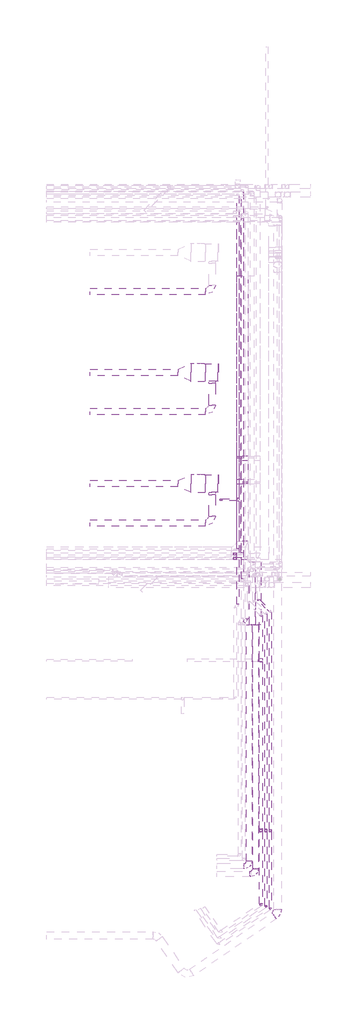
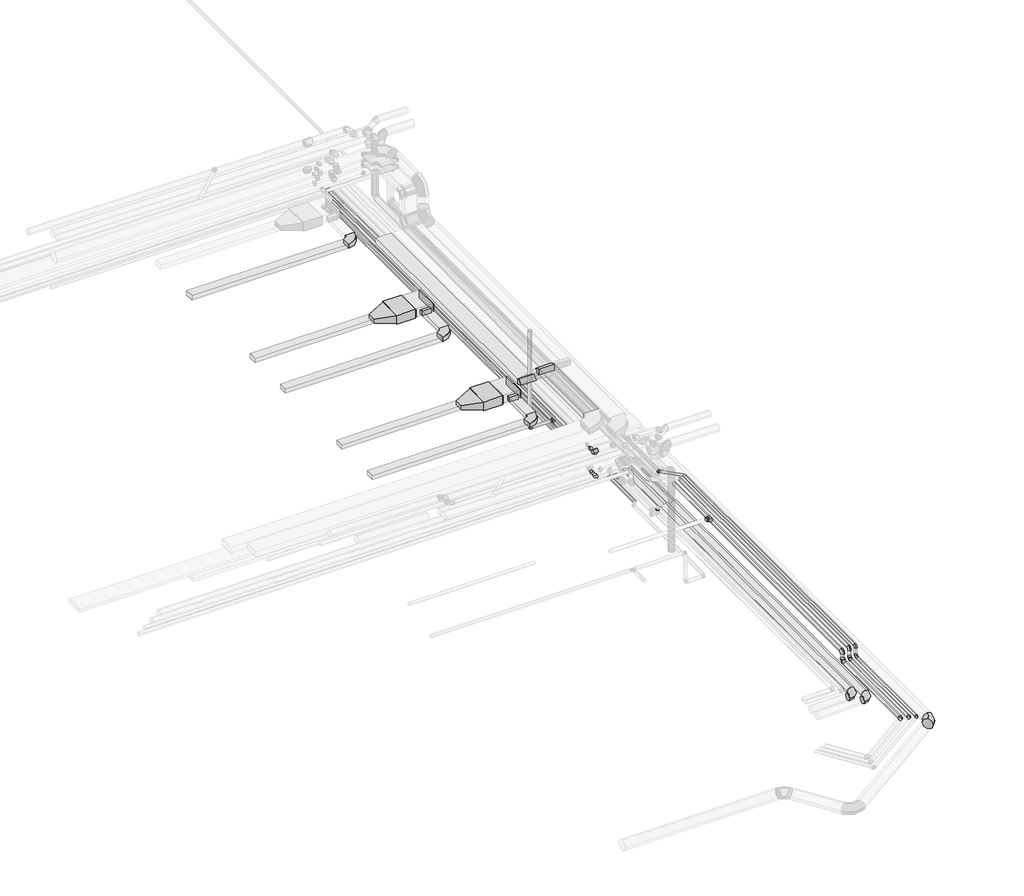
# One storey, part 7 of 12: 26 pipe segments, 21 pipe fittings, 12 duct fittings, 12 duct segments, 2 proxies.
"""IFC4 building model written with IfcOpenShell, lengths in millimetres."""

from ifc_helpers import new_model, si_unit, point, frame, frame_2d, origin, place, context, project, spatial, polyline, circle_curve, trimmed, segment, composite_curve, outline, extrude, transform, mapped, element, save
from components import fc01_db58e849, duct_fitting_83e7c145, ext_22d5d12d, m_codo_rectangular_radio_apt_1_w_cd8a0157, m_codo_rectangular_radio_ext_1_w_96c848b7, m_codo_redondo_ext_1_d_34d035f7, m_remate_rectangular_ext_55e19840, pipe_fitting_fa3f9604, pipe_fitting_87aeffad, pipe_fitting_4a6b8cfe, pipe_fitting_2d09eb79, pipe_fitting_e0fa64fe, pipe_fitting_6ca4cbf4, pipe_fitting_83247f38, pipe_fitting_68ac33cf, pipe_fitting_f0bc9a91, pipe_fitting_44d1c861, pipe_fitting_c627985a, pipe_fitting_243cbe8d, pipe_fitting_32a69fdb, pipe_fitting_2d7a21c9, pipe_fitting_19aea86e, pipe_fitting_a1899b5d, pipe_fitting_a384b232, pipe_fitting_5adb8ecf

model = new_model("IFC4")

# Units and contexts
model_context = context("Model", 3, world=origin())
ifc_project = project(units=[si_unit("LENGTHUNIT", "METRE", prefix="MILLI")], contexts=[model_context])

# Site, building, storey
site = spatial("IfcSite", under=ifc_project)
building = spatial("IfcBuilding", under=site)
storey = spatial("IfcBuildingStorey", under=building, Name="Nivell -01 PS1_PK", Elevation=1850.0)

# Proxies
placement = place(None, origin())
fc01_shape = fc01_db58e849(model_context)
element("IfcBuildingElementProxy", 1, Name="ARC_MDL_ME_UI_FC_ConducteSostre : FC01", ObjectType="ARC_MDL_ME_UI_FC_ConducteSostre : FC01", at=placement, inside=storey, context=model_context, shape_type="MappedRepresentation", body=[
    mapped(fc01_shape, transform((29819.1880978, -8996.752956, 5350.0), x_axis=(0.0, -1.0, 0.0), y_axis=(1.0, 0.0, 0.0), z_axis=(0.0, 0.0, 1.0))),
])
element("IfcBuildingElementProxy", 2, Name="ARC_MDL_ME_UI_FC_ConducteSostre : FC01", ObjectType="ARC_MDL_ME_UI_FC_ConducteSostre : FC01", at=placement, inside=storey, context=model_context, shape_type="MappedRepresentation", body=[
    mapped(fc01_shape, transform((29819.1880978, -3896.752956, 5350.0), x_axis=(0.0, -1.0, 0.0), y_axis=(1.0, 0.0, 0.0), z_axis=(0.0, 0.0, 1.0))),
])

# Duct fittings
duct_fitting_shape = duct_fitting_83e7c145(model_context)
element("IfcDuctFitting", 3, ObjectType="M_Transición rectangular - Ángulo : EXT_45 graus", at=placement, inside=storey, context=model_context, shape_type="MappedRepresentation", body=[
    mapped(duct_fitting_shape, transform((29504.1880978, -8996.752956, 5507.5), x_axis=(-1.0, 0.0, 0.0), y_axis=(0.0, -1.0, 0.0), z_axis=(0.0, 0.0, 1.0))),
])
element("IfcDuctFitting", 4, ObjectType="M_Transición rectangular - Ángulo : EXT_45 graus", at=placement, inside=storey, context=model_context, shape_type="MappedRepresentation", body=[
    mapped(duct_fitting_shape, transform((29504.1880978, -3896.752956, 5507.5), x_axis=(-1.0, 0.0, 0.0), y_axis=(0.0, -1.0, 0.0), z_axis=(0.0, 0.0, 1.0))),
])
ext_shape = ext_22d5d12d(model_context)
element("IfcDuctFitting", 5, ObjectType="M_Toma de derivación rectangular : EXT", at=placement, inside=storey, context=model_context, shape_type="MappedRepresentation", body=[
    mapped(ext_shape, transform((30468.4719354, -9396.752956, 5507.5), x_axis=(0.0, -1.0, 0.0), y_axis=(-1.0, 0.0, 0.0), z_axis=(0.0, 0.0, -1.0))),
])
element("IfcDuctFitting", 6, ObjectType="M_Toma de derivación rectangular : EXT", at=placement, inside=storey, context=model_context, shape_type="MappedRepresentation", body=[
    mapped(ext_shape, transform((30468.4719354, -4296.752956, 5507.5), x_axis=(0.0, -1.0, 0.0), y_axis=(-1.0, 0.0, 0.0), z_axis=(0.0, 0.0, -1.0))),
])
m_codo_rectangular_radio_apt_1_w_shape = m_codo_rectangular_radio_apt_1_w_cd8a0157(model_context)
element("IfcDuctFitting", 7, ObjectType="M_Codo rectangular - Radio : EXT_1 W", at=placement, inside=storey, context=model_context, shape_type="MappedRepresentation", body=[
    mapped(m_codo_rectangular_radio_apt_1_w_shape, transform((31865.0957651, -7824.4030307, 4650.0), x_axis=(0.0, -1.0, 0.0), y_axis=(0.0, 0.0, 1.0), z_axis=(-1.0, 0.0, 0.0))),
])
element("IfcDuctFitting", 8, ObjectType="M_Codo rectangular - Radio : EXT_1 W", at=placement, inside=storey, context=model_context, shape_type="MappedRepresentation", body=[
    mapped(m_codo_rectangular_radio_apt_1_w_shape, transform((31865.0957651, -8924.4030307, 5750.0), x_axis=(0.0, 1.0, 0.0), y_axis=(0.0, 0.0, -1.0), z_axis=(-1.0, 0.0, 0.0))),
])
m_codo_rectangular_radio_ext_1_w_shape = m_codo_rectangular_radio_ext_1_w_96c848b7(model_context)
element("IfcDuctFitting", 9, ObjectType="M_Codo rectangular - Radio : EXT_1 W", at=placement, inside=storey, context=model_context, shape_type="MappedRepresentation", body=[
    mapped(m_codo_rectangular_radio_ext_1_w_shape, transform((30468.4719354, -10794.2238281, 5507.5), x_axis=(1.0, 0.0, 0.0), y_axis=(0.0, 1.0, 0.0), z_axis=(0.0, 0.0, 1.0))),
])
element("IfcDuctFitting", 10, ObjectType="M_Codo rectangular - Radio : EXT_1 W", at=placement, inside=storey, context=model_context, shape_type="MappedRepresentation", body=[
    mapped(m_codo_rectangular_radio_ext_1_w_shape, transform((30468.4719354, -194.2238281, 5507.5), x_axis=(1.0, 0.0, 0.0), y_axis=(0.0, 1.0, 0.0), z_axis=(0.0, 0.0, 1.0))),
])
element("IfcDuctFitting", 11, ObjectType="M_Codo rectangular - Radio : EXT_1 W", at=placement, inside=storey, context=model_context, shape_type="MappedRepresentation", body=[
    mapped(m_codo_rectangular_radio_ext_1_w_shape, transform((30468.4719354, -5694.2238281, 5507.5), x_axis=(1.0, 0.0, 0.0), y_axis=(0.0, 1.0, 0.0), z_axis=(0.0, 0.0, 1.0))),
])
m_codo_redondo_ext_1_d_shape = m_codo_redondo_ext_1_d_34d035f7(model_context)
element("IfcDuctFitting", 12, ObjectType="M_Codo redondo : EXT_1 D", at=placement, inside=storey, context=model_context, shape_type="MappedRepresentation", body=[
    mapped(m_codo_redondo_ext_1_d_shape, transform((33479.0046011, -28702.3705842, 4575.0), x_axis=(0.824998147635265, 0.5651354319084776, 0.0), y_axis=(-0.5651354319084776, 0.824998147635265, 0.0), z_axis=(0.0, 0.0, 1.0))),
])
m_remate_rectangular_ext_shape = m_remate_rectangular_ext_55e19840(model_context)
element("IfcDuctFitting", 13, ObjectType="M_Remate rectangular : EXT", at=placement, inside=storey, context=model_context, shape_type="MappedRepresentation", body=[
    mapped(m_remate_rectangular_ext_shape, transform((30741.1880978, -8996.752956, 5507.5), x_axis=(1.0, 0.0, 0.0), y_axis=(0.0, 1.0, 0.0), z_axis=(0.0, 0.0, 1.0))),
])
element("IfcDuctFitting", 14, ObjectType="M_Remate rectangular : EXT", at=placement, inside=storey, context=model_context, shape_type="MappedRepresentation", body=[
    mapped(m_remate_rectangular_ext_shape, transform((30741.1880978, -3896.752956, 5507.5), x_axis=(1.0, 0.0, 0.0), y_axis=(0.0, 1.0, 0.0), z_axis=(0.0, 0.0, 1.0))),
])

# Duct segments
element("IfcDuctSegment", 15, ObjectType="EXT_Fibra de vidre rígida", at=placement, inside=storey, context=model_context, shape_type="SweptSolid", body=[
    extrude(outline(polyline([(31615.0957651, 533.4396818), (32115.0957651, 533.4396818), (32115.0957651, -7741.5603182), (31615.0957651, -7741.5603182), (31615.0957651, 533.4396818)])), frame((0.0, 0.0, 4550.0), z_axis=(0.0, 0.0, 1.0), x_axis=(1.0, 0.0, 0.0)), (0.0, 0.0, 1.0), 200.0),
])
element("IfcDuctSegment", 16, ObjectType="EXT_Fibra de vidre rígida", at=placement, inside=storey, context=model_context, shape_type="SweptSolid", body=[
    extrude(outline(polyline([(0.0, -500.0), (0.0, 0.0), (1389.9494937, 0.0), (1389.9494937, -500.0), (0.0, -500.0)])), frame((32115.0957651, -7953.6923526, 4637.8679656), z_axis=(0.0, 0.707106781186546, 0.7071067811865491), x_axis=(0.0, -0.7071067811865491, 0.707106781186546)), (0.0, 0.0, 1.0), 200.0),
])
element("IfcDuctSegment", 17, ObjectType="EXT_Fibra de vidre rígida", at=placement, inside=storey, context=model_context, shape_type="SweptSolid", body=[
    extrude(outline(polyline([(31615.0957651, -9007.2457432), (32115.0957651, -9007.2457432), (32115.0957651, -11628.0770603), (31615.0957651, -11628.0770603), (31615.0957651, -9007.2457432)])), frame((0.0, 0.0, 5650.0), z_axis=(0.0, 0.0, 1.0), x_axis=(1.0, 0.0, 0.0)), (0.0, 0.0, 1.0), 200.0),
])
element("IfcDuctSegment", 18, ObjectType="EXT_Planxa galvanitzada", at=placement, inside=storey, context=model_context, shape_type="SweptSolid", body=[
    extrude(outline(polyline([(28900.6347072, -8846.752956), (28900.6347072, -9146.752956), (24868.4719354, -9146.752956), (24868.4719354, -8846.752956), (28900.6347072, -8846.752956)])), frame((0.0, 0.0, 5432.5), z_axis=(0.0, 0.0, 1.0), x_axis=(1.0, 0.0, 0.0)), (0.0, 0.0, 1.0), 150.0),
])
element("IfcDuctSegment", 19, ObjectType="EXT_Planxa galvanitzada", at=placement, inside=storey, context=model_context, shape_type="SweptSolid", body=[
    extrude(outline(polyline([(30161.1880978, -9396.752956), (30161.1880978, -8596.752956), (30741.1880978, -8596.752956), (30741.1880978, -9396.752956), (30161.1880978, -9396.752956)])), frame((0.0, 0.0, 5370.0), z_axis=(0.0, 0.0, 1.0), x_axis=(1.0, 0.0, 0.0)), (0.0, 0.0, 1.0), 275.0),
])
element("IfcDuctSegment", 20, ObjectType="EXT_Planxa galvanitzada", at=placement, inside=storey, context=model_context, shape_type="SweptSolid", body=[
    extrude(outline(polyline([(30168.4719354, -10644.2238281), (30168.4719354, -10944.2238281), (24868.4719354, -10944.2238281), (24868.4719354, -10644.2238281), (30168.4719354, -10644.2238281)])), frame((0.0, 0.0, 5432.5), z_axis=(0.0, 0.0, 1.0), x_axis=(1.0, 0.0, 0.0)), (0.0, 0.0, 1.0), 150.0),
])
element("IfcDuctSegment", 21, ObjectType="EXT_Planxa galvanitzada", at=placement, inside=storey, context=model_context, shape_type="SweptSolid", body=[
    extrude(outline(polyline([(30318.4719354, -9498.352956), (30618.4719354, -9498.352956), (30618.4719354, -10494.2238281), (30318.4719354, -10494.2238281), (30318.4719354, -9498.352956)])), frame((0.0, 0.0, 5432.5), z_axis=(0.0, 0.0, 1.0), x_axis=(1.0, 0.0, 0.0)), (0.0, 0.0, 1.0), 150.0),
])
element("IfcDuctSegment", 22, ObjectType="EXT_Planxa galvanitzada", at=placement, inside=storey, context=model_context, shape_type="SweptSolid", body=[
    extrude(outline(polyline([(30168.4719354, -44.2238281), (30168.4719354, -344.2238281), (24868.4719354, -344.2238281), (24868.4719354, -44.2238281), (30168.4719354, -44.2238281)])), frame((0.0, 0.0, 5432.5), z_axis=(0.0, 0.0, 1.0), x_axis=(1.0, 0.0, 0.0)), (0.0, 0.0, 1.0), 150.0),
])
element("IfcDuctSegment", 23, ObjectType="EXT_Planxa galvanitzada", at=placement, inside=storey, context=model_context, shape_type="SweptSolid", body=[
    extrude(outline(polyline([(28900.6347072, -3746.752956), (28900.6347072, -4046.752956), (24868.4719354, -4046.752956), (24868.4719354, -3746.752956), (28900.6347072, -3746.752956)])), frame((0.0, 0.0, 5432.5), z_axis=(0.0, 0.0, 1.0), x_axis=(1.0, 0.0, 0.0)), (0.0, 0.0, 1.0), 150.0),
])
element("IfcDuctSegment", 24, ObjectType="EXT_Planxa galvanitzada", at=placement, inside=storey, context=model_context, shape_type="SweptSolid", body=[
    extrude(outline(polyline([(30161.1880978, -4296.752956), (30161.1880978, -3496.752956), (30741.1880978, -3496.752956), (30741.1880978, -4296.752956), (30161.1880978, -4296.752956)])), frame((0.0, 0.0, 5370.0), z_axis=(0.0, 0.0, 1.0), x_axis=(1.0, 0.0, 0.0)), (0.0, 0.0, 1.0), 275.0),
])
element("IfcDuctSegment", 25, ObjectType="EXT_Planxa galvanitzada", at=placement, inside=storey, context=model_context, shape_type="SweptSolid", body=[
    extrude(outline(polyline([(30168.4719354, -5544.2238281), (30168.4719354, -5844.2238281), (24868.4719354, -5844.2238281), (24868.4719354, -5544.2238281), (30168.4719354, -5544.2238281)])), frame((0.0, 0.0, 5432.5), z_axis=(0.0, 0.0, 1.0), x_axis=(1.0, 0.0, 0.0)), (0.0, 0.0, 1.0), 150.0),
])
element("IfcDuctSegment", 26, ObjectType="EXT_Planxa galvanitzada", at=placement, inside=storey, context=model_context, shape_type="SweptSolid", body=[
    extrude(outline(polyline([(30318.4719354, -4398.352956), (30618.4719354, -4398.352956), (30618.4719354, -5394.2238281), (30318.4719354, -5394.2238281), (30318.4719354, -4398.352956)])), frame((0.0, 0.0, 5432.5), z_axis=(0.0, 0.0, 1.0), x_axis=(1.0, 0.0, 0.0)), (0.0, 0.0, 1.0), 150.0),
])

# Pipe fittings
pipe_fitting_shape = pipe_fitting_fa3f9604(model_context)
element("IfcPipeFitting", 27, ObjectType="M_Codo - Genérico : Estándar", at=placement, inside=storey, context=model_context, shape_type="MappedRepresentation", body=[
    mapped(pipe_fitting_shape, transform((32939.7910961, -24899.877588, 4695.0), x_axis=(2.0856299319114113e-05, 0.9999999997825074, 0.0), y_axis=(0.0, 0.0, 1.0), z_axis=(0.9999999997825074, -2.0856299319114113e-05, 0.0))),
])
pipe_fitting_2_shape = pipe_fitting_87aeffad(model_context)
element("IfcPipeFitting", 28, ObjectType="M_Codo - Genérico : Estándar", at=placement, inside=storey, context=model_context, shape_type="MappedRepresentation", body=[
    mapped(pipe_fitting_2_shape, transform((30879.0046011, -9734.3646266, 4449.2), x_axis=(-1.0, 0.0, 0.0), y_axis=(0.0, 0.0, 1.0), z_axis=(0.0, 1.0, 0.0))),
])
element("IfcPipeFitting", 29, ObjectType="M_Codo - Genérico : Estándar", at=placement, inside=storey, context=model_context, shape_type="MappedRepresentation", body=[
    mapped(pipe_fitting_2_shape, transform((33139.7905459, -24910.4317592, 4705.0), x_axis=(2.085629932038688e-05, 0.9999999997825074, 0.0), y_axis=(0.0, 0.0, 1.0), z_axis=(0.9999999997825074, -2.085629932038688e-05, 0.0))),
])
element("IfcPipeFitting", 30, ObjectType="M_Codo - Genérico : Estándar", at=placement, inside=storey, context=model_context, shape_type="MappedRepresentation", body=[
    mapped(pipe_fitting_2_shape, transform((33139.7905459, -24910.4317592, 5067.5), x_axis=(0.0, 0.0, 1.0), y_axis=(2.0856299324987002e-05, 0.9999999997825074, 0.0), z_axis=(-0.9999999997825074, 2.0856299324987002e-05, 0.0))),
])
pipe_fitting_3_shape = pipe_fitting_4a6b8cfe(model_context)
element("IfcPipeFitting", 31, ObjectType="M_Codo - Genérico : Estándar", at=placement, inside=storey, context=model_context, shape_type="MappedRepresentation", body=[
    mapped(pipe_fitting_3_shape, transform((32590.0107148, -14307.9291888, 5067.5), x_axis=(0.0, -1.0, 0.0), y_axis=(1.0, 0.0, 0.0), z_axis=(0.0, 0.0, 1.0))),
])
pipe_fitting_4_shape = pipe_fitting_2d09eb79(model_context)
element("IfcPipeFitting", 32, ObjectType="M_Te - Genérica : Estándar", at=placement, inside=storey, context=model_context, shape_type="MappedRepresentation", body=[
    mapped(pipe_fitting_4_shape, transform((31659.0046011, -9734.3646266, 4449.2), x_axis=(0.0, 1.0, 0.0), y_axis=(1.0, 0.0, 0.0), z_axis=(0.0, 0.0, -1.0))),
])
pipe_fitting_5_shape = pipe_fitting_e0fa64fe(model_context)
element("IfcPipeFitting", 33, ObjectType="M_Codo - Genérico : Estándar", at=placement, inside=storey, context=model_context, shape_type="MappedRepresentation", body=[
    mapped(pipe_fitting_5_shape, transform((32707.5726895, -24891.3727448, 4687.5), x_axis=(2.0856299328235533e-05, 0.9999999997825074, 0.0), y_axis=(0.0, 0.0, 1.0), z_axis=(0.9999999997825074, -2.0856299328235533e-05, 0.0))),
])
pipe_fitting_6_shape = pipe_fitting_6ca4cbf4(model_context)
element("IfcPipeFitting", 34, ObjectType="M_Codo - Genérico : Estándar", at=placement, inside=storey, context=model_context, shape_type="MappedRepresentation", body=[
    mapped(pipe_fitting_6_shape, transform((31520.0193017, -12222.4519116, 4125.0000001), x_axis=(-0.9999999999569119, 0.0, -9.283112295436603e-06), y_axis=(-9.283112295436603e-06, 0.0, 0.9999999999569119), z_axis=(0.0, 1.0, 0.0))),
])
pipe_fitting_7_shape = pipe_fitting_83247f38(model_context)
element("IfcPipeFitting", 35, ObjectType="M_Codo - Genérico : Estándar", at=placement, inside=storey, context=model_context, shape_type="MappedRepresentation", body=[
    mapped(pipe_fitting_7_shape, transform((31520.002128, -12222.4519116, 5030.0), x_axis=(-1.856622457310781e-05, 0.0, 0.9999999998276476), y_axis=(-0.9999999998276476, 0.0, -1.856622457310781e-05), z_axis=(0.0, -1.0, 0.0))),
])
pipe_fitting_8_shape = pipe_fitting_68ac33cf(model_context)
element("IfcPipeFitting", 36, ObjectType="M_Codo - Genérico : Estándar", at=placement, inside=storey, context=model_context, shape_type="MappedRepresentation", body=[
    mapped(pipe_fitting_8_shape, transform((31520.0171459, -12422.4519116, 4117.5), x_axis=(-0.9999999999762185, 0.0, -6.896604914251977e-06), y_axis=(-6.896604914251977e-06, 0.0, 0.9999999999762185), z_axis=(0.0, 1.0, 0.0))),
])
pipe_fitting_9_shape = pipe_fitting_f0bc9a91(model_context)
element("IfcPipeFitting", 37, ObjectType="M_Te - Genérica : Estándar", at=placement, inside=storey, context=model_context, shape_type="MappedRepresentation", body=[
    mapped(pipe_fitting_9_shape, transform((31520.0042837, -12422.4519116, 5030.0), x_axis=(1.0, 0.0, 0.0), y_axis=(0.0, 0.0, 1.0), z_axis=(0.0, -1.0, 0.0))),
])
pipe_fitting_10_shape = pipe_fitting_44d1c861(model_context)
element("IfcPipeFitting", 38, ObjectType="M_Codo - Genérico : Estándar", at=placement, inside=storey, context=model_context, shape_type="MappedRepresentation", body=[
    mapped(pipe_fitting_10_shape, transform((32707.5025616, -28291.4643747, 4687.5), x_axis=(0.8249981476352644, 0.5651354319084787, 0.0), y_axis=(-0.5651354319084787, 0.8249981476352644, 0.0), z_axis=(0.0, 0.0, 1.0))),
])
pipe_fitting_11_shape = pipe_fitting_c627985a(model_context)
element("IfcPipeFitting", 39, ObjectType="M_Codo - Genérico : Estándar", at=placement, inside=storey, context=model_context, shape_type="MappedRepresentation", body=[
    mapped(pipe_fitting_11_shape, transform((32939.7193137, -28374.8173927, 4695.0), x_axis=(0.8249981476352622, 0.5651354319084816, 0.0), y_axis=(-0.5651354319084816, 0.8249981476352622, 0.0), z_axis=(0.0, 0.0, 1.0))),
])
pipe_fitting_12_shape = pipe_fitting_243cbe8d(model_context)
element("IfcPipeFitting", 40, ObjectType="M_Codo - Genérico : Estándar", at=placement, inside=storey, context=model_context, shape_type="MappedRepresentation", body=[
    mapped(pipe_fitting_12_shape, transform((33139.716669, -28480.2411546, 4705.0), x_axis=(0.8249981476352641, 0.5651354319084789, 0.0), y_axis=(-0.5651354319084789, 0.8249981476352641, 0.0), z_axis=(0.0, 0.0, 1.0))),
])
pipe_fitting_13_shape = pipe_fitting_32a69fdb(model_context)
element("IfcPipeFitting", 41, ObjectType="M_Codo - Genérico : Estándar", at=placement, inside=storey, context=model_context, shape_type="MappedRepresentation", body=[
    mapped(pipe_fitting_13_shape, transform((32707.6468606, -24891.2987905, 5010.4756458), x_axis=(0.0, 0.0, 1.0), y_axis=(2.08562993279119e-05, 0.9999999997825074, 0.0), z_axis=(-0.9999999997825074, 2.08562993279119e-05, 0.0))),
])
pipe_fitting_14_shape = pipe_fitting_2d7a21c9(model_context)
element("IfcPipeFitting", 42, ObjectType="M_Codo - Genérico : Estándar", at=placement, inside=storey, context=model_context, shape_type="MappedRepresentation", body=[
    mapped(pipe_fitting_14_shape, transform((32939.7910961, -24899.877588, 5058.1577133), x_axis=(0.0, 0.0, 1.0), y_axis=(2.0856299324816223e-05, 0.9999999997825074, 0.0), z_axis=(-0.9999999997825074, 2.0856299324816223e-05, 0.0))),
])
pipe_fitting_15_shape = pipe_fitting_19aea86e(model_context)
element("IfcPipeFitting", 43, ObjectType="M_Te - Genérica : Estándar", at=placement, inside=storey, context=model_context, shape_type="MappedRepresentation", body=[
    mapped(pipe_fitting_15_shape, transform((32707.8095535, -17090.6428159, 5025.8598754), x_axis=(2.085626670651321e-05, 0.9999980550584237, 0.001972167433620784), y_axis=(0.9999999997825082, -2.085622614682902e-05, -4.113204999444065e-08), z_axis=(0.0, 0.0019721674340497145, -0.999998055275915))),
])
pipe_fitting_16_shape = pipe_fitting_a1899b5d(model_context)
element("IfcPipeFitting", 44, ObjectType="M_Transición - Genérica : Estándar", at=placement, inside=storey, context=model_context, shape_type="MappedRepresentation", body=[
    mapped(pipe_fitting_16_shape, transform((32630.0220535, -17090.6428159, 5025.8598754), x_axis=(-1.0, 0.0, 0.0), y_axis=(0.0, -0.999998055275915, -0.001972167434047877), z_axis=(0.0, -0.001972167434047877, 0.999998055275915))),
])
pipe_fitting_17_shape = pipe_fitting_a384b232(model_context)
element("IfcPipeFitting", 45, ObjectType="M_Codo - Genérico : Estándar", at=placement, inside=storey, context=model_context, shape_type="MappedRepresentation", body=[
    mapped(pipe_fitting_17_shape, transform((32063.0080405, -15173.2364047, 4445.0), x_axis=(0.500000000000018, 0.8660254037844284, 0.0), y_axis=(-0.8660254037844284, 0.500000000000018, 0.0), z_axis=(0.0, 0.0, 1.0))),
])
pipe_fitting_18_shape = pipe_fitting_5adb8ecf(model_context)
element("IfcPipeFitting", 46, ObjectType="Codo 90º Soldadura a Tope SDR 11 BluePipe : Estándar", at=placement, inside=storey, context=model_context, shape_type="MappedRepresentation", body=[
    mapped(pipe_fitting_18_shape, transform((32172.4606679, -26532.7351964, 4650.0), x_axis=(0.9999999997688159, -2.150274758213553e-05, 0.0), y_axis=(2.150274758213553e-05, 0.9999999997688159, 0.0), z_axis=(0.0, 0.0, 1.0))),
])
element("IfcPipeFitting", 47, ObjectType="Codo 90º Soldadura a Tope SDR 11 BluePipe : Estándar", at=placement, inside=storey, context=model_context, shape_type="MappedRepresentation", body=[
    mapped(pipe_fitting_18_shape, transform((32462.3979551, -26882.6687579, 4649.9999505), x_axis=(0.9999999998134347, -1.9316589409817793e-05, 0.0), y_axis=(1.9316589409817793e-05, 0.9999999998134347, 0.0), z_axis=(0.0, 0.0, 1.0))),
])

# Pipe segments
element("IfcPipeSegment", 48, ObjectType="AN_CI", at=placement, inside=storey, context=model_context, shape_type="SweptSolid", body=[
    extrude(outline(composite_curve([segment(trimmed(circle_curve(frame_2d((-9734.3646266, 4449.2)), 50.8), [point((-9683.5646266, 4449.2))], [point((-9734.3646266, 4398.4))], False, "CARTESIAN"), True, "CONTINUOUS"), segment(trimmed(circle_curve(frame_2d((-9734.3646266, 4449.2)), 50.8), [point((-9734.3646266, 4398.4))], [point((-9785.1646266, 4449.2))], False, "CARTESIAN"), True, "CONTINUOUS"), segment(trimmed(circle_curve(frame_2d((-9734.3646266, 4449.2)), 50.8), [point((-9785.1646266, 4449.2))], [point((-9734.3646266, 4500.0))], False, "CARTESIAN"), True, "CONTINUOUS"), segment(trimmed(circle_curve(frame_2d((-9734.3646266, 4449.2)), 50.8), [point((-9734.3646266, 4500.0))], [point((-9683.5646266, 4449.2))], False, "CARTESIAN"), True, "CONTINUOUS")], self_intersect=False)), frame((30931.3921011, 0.0, 0.0), z_axis=(1.0, 0.0, 0.0), x_axis=(0.0, 1.0, 0.0)), (0.0, 0.0, 1.0), 668.875),
])
element("IfcPipeSegment", 49, ObjectType="AN_CI", at=placement, inside=storey, context=model_context, shape_type="SweptSolid", body=[
    extrude(outline(composite_curve([segment(trimmed(circle_curve(frame_2d((30879.0046011, -9734.3646266)), 50.8), [point((30828.2046011, -9734.3646266))], [point((30879.0046011, -9683.5646266))], False, "CARTESIAN"), True, "CONTINUOUS"), segment(trimmed(circle_curve(frame_2d((30879.0046011, -9734.3646266)), 50.8), [point((30879.0046011, -9683.5646266))], [point((30929.8046011, -9734.3646266))], False, "CARTESIAN"), True, "CONTINUOUS"), segment(trimmed(circle_curve(frame_2d((30879.0046011, -9734.3646266)), 50.8), [point((30929.8046011, -9734.3646266))], [point((30879.0046011, -9785.1646266))], False, "CARTESIAN"), True, "CONTINUOUS"), segment(trimmed(circle_curve(frame_2d((30879.0046011, -9734.3646266)), 50.8), [point((30879.0046011, -9785.1646266))], [point((30828.2046011, -9734.3646266))], False, "CARTESIAN"), True, "CONTINUOUS")], self_intersect=False)), frame((0.0, 0.0, 4501.5875), z_axis=(0.0, 0.0, 1.0), x_axis=(1.0, 0.0, 0.0)), (0.0, 0.0, 1.0), 3428.4125),
])
element("IfcPipeSegment", 50, ObjectType="AN_CI", at=placement, inside=storey, context=model_context, shape_type="SweptSolid", body=[
    extrude(outline(composite_curve([segment(trimmed(circle_curve(frame_2d((4449.2, 31659.0046011)), 50.8), [point((4449.2, 31709.8046011))], [point((4500.0, 31659.0046011))], False, "CARTESIAN"), True, "CONTINUOUS"), segment(trimmed(circle_curve(frame_2d((4449.2, 31659.0046011)), 50.8), [point((4500.0, 31659.0046011))], [point((4449.2, 31608.2046011))], False, "CARTESIAN"), True, "CONTINUOUS"), segment(trimmed(circle_curve(frame_2d((4449.2, 31659.0046011)), 50.8), [point((4449.2, 31608.2046011))], [point((4398.4, 31659.0046011))], False, "CARTESIAN"), True, "CONTINUOUS"), segment(trimmed(circle_curve(frame_2d((4449.2, 31659.0046011)), 50.8), [point((4398.4, 31659.0046011))], [point((4449.2, 31709.8046011))], False, "CARTESIAN"), True, "CONTINUOUS")], self_intersect=False)), frame((0.0, -9675.6271266, 0.0), z_axis=(0.0, 1.0, 0.0), x_axis=(0.0, 0.0, 1.0)), (0.0, 0.0, 1.0), 13867.6125),
])
element("IfcPipeSegment", 51, ObjectType="PP_FN", at=placement, inside=storey, context=model_context, shape_type="SweptSolid", body=[
    extrude(outline(composite_curve([segment(trimmed(circle_curve(frame_2d((0.0, 62.5)), 62.5), [point((0.0, 125.0))], [point((62.5, 62.5))], False, "CARTESIAN"), True, "CONTINUOUS"), segment(trimmed(circle_curve(frame_2d((0.0, 62.5)), 62.5), [point((62.5, 62.5))], [point((0.0, 0.0))], False, "CARTESIAN"), True, "CONTINUOUS"), segment(trimmed(circle_curve(frame_2d((0.0, 62.5)), 62.5), [point((0.0, 0.0))], [point((-62.5, 62.5))], False, "CARTESIAN"), True, "CONTINUOUS"), segment(trimmed(circle_curve(frame_2d((0.0, 62.5)), 62.5), [point((-62.5, 62.5))], [point((0.0, 125.0))], False, "CARTESIAN"), True, "CONTINUOUS")], self_intersect=False)), frame((32645.0025616, -28253.8076683, 4687.5), z_axis=(2.0856275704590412e-05, 0.9999999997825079, 0.0), x_axis=(0.0, 0.0, 1.0)), (0.0, 0.0, 1.0), 3290.9987277),
])
element("IfcPipeSegment", 52, ObjectType="PP_FN", at=placement, inside=storey, context=model_context, shape_type="SweptSolid", body=[
    extrude(outline(composite_curve([segment(trimmed(circle_curve(frame_2d((0.0, 54.9999999)), 55.0), [point((0.0, 109.9999999))], [point((55.0, 54.9999999))], False, "CARTESIAN"), True, "CONTINUOUS"), segment(trimmed(circle_curve(frame_2d((0.0, 54.9999999)), 55.0), [point((55.0, 54.9999999))], [point((0.0, 0.0))], False, "CARTESIAN"), True, "CONTINUOUS"), segment(trimmed(circle_curve(frame_2d((0.0, 54.9999999)), 55.0), [point((0.0, 0.0))], [point((-55.0, 54.9999999))], False, "CARTESIAN"), True, "CONTINUOUS"), segment(trimmed(circle_curve(frame_2d((0.0, 54.9999999)), 55.0), [point((-55.0, 54.9999999))], [point((0.0, 109.9999999))], False, "CARTESIAN"), True, "CONTINUOUS")], self_intersect=False)), frame((32884.7193138, -28341.6412757, 4695.0), z_axis=(2.085627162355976e-05, 0.999999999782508, 0.0), x_axis=(0.0, 0.0, 1.0)), (0.0, 0.0, 1.0), 3378.8273355),
])
element("IfcPipeSegment", 53, ObjectType="PP_FN", at=placement, inside=storey, context=model_context, shape_type="SweptSolid", body=[
    extrude(outline(composite_curve([segment(trimmed(circle_curve(frame_2d((0.0, 45.0)), 45.0), [point((0.0, 89.9999999))], [point((45.0, 45.0))], False, "CARTESIAN"), True, "CONTINUOUS"), segment(trimmed(circle_curve(frame_2d((0.0, 45.0)), 45.0), [point((45.0, 45.0))], [point((0.0, 0.0))], False, "CARTESIAN"), True, "CONTINUOUS"), segment(trimmed(circle_curve(frame_2d((0.0, 45.0)), 45.0), [point((0.0, 0.0))], [point((-45.0, 45.0))], False, "CARTESIAN"), True, "CONTINUOUS"), segment(trimmed(circle_curve(frame_2d((0.0, 45.0)), 45.0), [point((-45.0, 45.0))], [point((0.0, 89.9999999))], False, "CARTESIAN"), True, "CONTINUOUS")], self_intersect=False)), frame((33094.716669, -28452.626254, 4705.0), z_axis=(2.0856268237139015e-05, 0.9999999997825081, 0.0), x_axis=(0.0, 0.0, 1.0)), (0.0, 0.0, 1.0), 3489.8079341),
])
element("IfcPipeSegment", 54, ObjectType="PPR_CLI_Aquatherm Blue Pipe", at=placement, inside=storey, context=model_context, shape_type="SweptSolid", body=[
    extrude(outline(composite_curve([segment(trimmed(circle_curve(frame_2d((0.0, -125.0)), 125.0), [point((0.0, 0.0))], [point((125.0, -125.0))], False, "CARTESIAN"), True, "CONTINUOUS"), segment(trimmed(circle_curve(frame_2d((0.0, -125.0)), 125.0), [point((125.0, -125.0))], [point((0.0, -250.0))], False, "CARTESIAN"), True, "CONTINUOUS"), segment(trimmed(circle_curve(frame_2d((0.0, -125.0)), 125.0), [point((0.0, -250.0))], [point((-125.0, -125.0))], False, "CARTESIAN"), True, "CONTINUOUS"), segment(trimmed(circle_curve(frame_2d((0.0, -125.0)), 125.0), [point((-125.0, -125.0))], [point((0.0, 0.0))], False, "CARTESIAN"), True, "CONTINUOUS")], self_intersect=False)), frame((32471.1943866, -15467.9161258, 4400.0), z_axis=(-2.1265171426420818e-08, 0.9999999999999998, 0.0), x_axis=(0.0, 0.0, -1.0)), (0.0, 0.0, 1.0), 2898.0),
])
element("IfcPipeSegment", 55, ObjectType="PPR_CLI_Aquatherm Blue Pipe", at=placement, inside=storey, context=model_context, shape_type="SweptSolid", body=[
    extrude(outline(composite_curve([segment(trimmed(circle_curve(frame_2d((0.0, -125.0)), 125.0), [point((0.0, 0.0))], [point((125.0, -125.0))], False, "CARTESIAN"), True, "CONTINUOUS"), segment(trimmed(circle_curve(frame_2d((0.0, -125.0)), 125.0), [point((125.0, -125.0))], [point((0.0, -250.0))], False, "CARTESIAN"), True, "CONTINUOUS"), segment(trimmed(circle_curve(frame_2d((0.0, -125.0)), 125.0), [point((0.0, -250.0))], [point((-125.0, -125.0))], False, "CARTESIAN"), True, "CONTINUOUS"), segment(trimmed(circle_curve(frame_2d((0.0, -125.0)), 125.0), [point((-125.0, -125.0))], [point((0.0, 0.0))], False, "CARTESIAN"), True, "CONTINUOUS")], self_intersect=False)), frame((32181.2570994, -15467.9161259, 4400.0), z_axis=(-2.1709510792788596e-08, 0.9999999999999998, 0.0), x_axis=(0.0, 0.0, -1.0)), (0.0, 0.0, 1.0), 2898.0),
])
element("IfcPipeSegment", 56, ObjectType="PPR_CLI_Aquatherm Blue Pipe", at=placement, inside=storey, context=model_context, shape_type="SweptSolid", body=[
    extrude(outline(composite_curve([segment(trimmed(circle_curve(frame_2d((4445.0, 31862.999736)), 55.0), [point((4445.0, 31917.999736))], [point((4500.0, 31862.999736))], False, "CARTESIAN"), True, "CONTINUOUS"), segment(trimmed(circle_curve(frame_2d((4445.0, 31862.999736)), 55.0), [point((4500.0, 31862.999736))], [point((4445.0, 31807.999736))], False, "CARTESIAN"), True, "CONTINUOUS"), segment(trimmed(circle_curve(frame_2d((4445.0, 31862.999736)), 55.0), [point((4445.0, 31807.999736))], [point((4390.0, 31862.999736))], False, "CARTESIAN"), True, "CONTINUOUS"), segment(trimmed(circle_curve(frame_2d((4445.0, 31862.999736)), 55.0), [point((4390.0, 31862.999736))], [point((4445.0, 31917.999736))], False, "CARTESIAN"), True, "CONTINUOUS")], self_intersect=False)), frame((0.0, -13364.2277182, 0.0), z_axis=(0.0, 1.0, 0.0), x_axis=(0.0, 0.0, 1.0)), (0.0, 0.0, 1.0), 17740.5055859),
])
element("IfcPipeSegment", 57, ObjectType="PP_FN", at=placement, inside=storey, context=model_context, shape_type="SweptSolid", body=[
    extrude(outline(composite_curve([segment(trimmed(circle_curve(frame_2d((0.0, -55.0)), 55.0), [point((0.0, -110.0))], [point((-55.0, -55.0))], False, "CARTESIAN"), True, "CONTINUOUS"), segment(trimmed(circle_curve(frame_2d((0.0, -55.0)), 55.0), [point((-55.0, -55.0))], [point((0.0, 0.0))], False, "CARTESIAN"), True, "CONTINUOUS"), segment(trimmed(circle_curve(frame_2d((0.0, -55.0)), 55.0), [point((0.0, 0.0))], [point((55.0, -55.0))], False, "CARTESIAN"), True, "CONTINUOUS"), segment(trimmed(circle_curve(frame_2d((0.0, -55.0)), 55.0), [point((55.0, -55.0))], [point((0.0, -110.0))], False, "CARTESIAN"), True, "CONTINUOUS")], self_intersect=False)), frame((31805.0107148, 3178.502087, 4124.373197), z_axis=(0.0, -0.9999999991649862, 4.086597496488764e-05), x_axis=(0.0, 4.086597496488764e-05, 0.9999999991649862)), (0.0, 0.0, 1.0), 15338.0165114),
])
element("IfcPipeSegment", 58, ObjectType="PP_FN", at=placement, inside=storey, context=model_context, shape_type="SweptSolid", body=[
    extrude(outline(composite_curve([segment(trimmed(circle_curve(frame_2d((0.0, 45.0)), 45.0), [point((0.0, 0.0))], [point((-45.0, 45.0))], False, "CARTESIAN"), True, "CONTINUOUS"), segment(trimmed(circle_curve(frame_2d((0.0, 45.0)), 45.0), [point((-45.0, 45.0))], [point((0.0, 90.0))], False, "CARTESIAN"), True, "CONTINUOUS"), segment(trimmed(circle_curve(frame_2d((0.0, 45.0)), 45.0), [point((0.0, 90.0))], [point((44.9999999, 45.0))], False, "CARTESIAN"), True, "CONTINUOUS"), segment(trimmed(circle_curve(frame_2d((0.0, 45.0)), 45.0), [point((44.9999999, 45.0))], [point((0.0, 0.0))], False, "CARTESIAN"), True, "CONTINUOUS")], self_intersect=False)), frame((31615.0107148, 2989.0520795, 4134.4779532), z_axis=(0.0, -0.9999999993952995, 3.477644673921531e-05), x_axis=(0.0, -3.477644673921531e-05, -0.9999999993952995)), (0.0, 0.0, 1.0), 14959.1165002),
])
element("IfcPipeSegment", 59, ObjectType="PP_FN", at=placement, inside=storey, context=model_context, shape_type="SweptSolid", body=[
    extrude(outline(composite_curve([segment(trimmed(circle_curve(frame_2d((0.0, 55.0)), 55.0), [point((-55.0, 55.0))], [point((0.0, 110.0))], False, "CARTESIAN"), True, "CONTINUOUS"), segment(trimmed(circle_curve(frame_2d((0.0, 55.0)), 55.0), [point((0.0, 110.0))], [point((55.0, 55.0))], False, "CARTESIAN"), True, "CONTINUOUS"), segment(trimmed(circle_curve(frame_2d((0.0, 55.0)), 55.0), [point((55.0, 55.0))], [point((0.0, 0.0))], False, "CARTESIAN"), True, "CONTINUOUS"), segment(trimmed(circle_curve(frame_2d((0.0, 55.0)), 55.0), [point((0.0, 0.0))], [point((-55.0, 55.0))], False, "CARTESIAN"), True, "CONTINUOUS")], self_intersect=False)), frame((31520.0181332, -12277.4519116, 4187.9369158), z_axis=(-1.904281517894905e-05, 0.0, 0.9999999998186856), x_axis=(0.9999999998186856, 0.0, 1.904281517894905e-05)), (0.0, 0.0, 1.0), 779.1267528),
])
element("IfcPipeSegment", 60, ObjectType="PP_FN", at=placement, inside=storey, context=model_context, shape_type="SweptSolid", body=[
    extrude(outline(composite_curve([segment(trimmed(circle_curve(frame_2d((0.0, 62.5)), 62.5), [point((-62.5, 62.5))], [point((0.0, 125.0))], False, "CARTESIAN"), True, "CONTINUOUS"), segment(trimmed(circle_curve(frame_2d((0.0, 62.5)), 62.5), [point((0.0, 125.0))], [point((62.5, 62.5))], False, "CARTESIAN"), True, "CONTINUOUS"), segment(trimmed(circle_curve(frame_2d((0.0, 62.5)), 62.5), [point((62.5, 62.5))], [point((0.0, 0.0))], False, "CARTESIAN"), True, "CONTINUOUS"), segment(trimmed(circle_curve(frame_2d((0.0, 62.5)), 62.5), [point((0.0, 0.0))], [point((-62.5, 62.5))], False, "CARTESIAN"), True, "CONTINUOUS")], self_intersect=False)), frame((31520.0161606, -12484.9519116, 4188.9370074), z_axis=(-1.415463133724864e-05, 0.0, 0.9999999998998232), x_axis=(0.9999999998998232, 0.0, 1.415463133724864e-05)), (0.0, 0.0, 1.0), 763.2754927),
])
element("IfcPipeSegment", 61, ObjectType="PP_FN", at=placement, inside=storey, context=model_context, shape_type="SweptSolid", body=[
    extrude(outline(composite_curve([segment(trimmed(circle_curve(frame_2d((-12422.4519116, 5030.0)), 62.5), [point((-12484.9519116, 5030.0))], [point((-12422.4519116, 5092.5))], False, "CARTESIAN"), True, "CONTINUOUS"), segment(trimmed(circle_curve(frame_2d((-12422.4519116, 5030.0)), 62.5), [point((-12422.4519116, 5092.5))], [point((-12359.9519116, 5030.0))], False, "CARTESIAN"), True, "CONTINUOUS"), segment(trimmed(circle_curve(frame_2d((-12422.4519116, 5030.0)), 62.5), [point((-12359.9519116, 5030.0))], [point((-12422.4519116, 4967.5))], False, "CARTESIAN"), True, "CONTINUOUS"), segment(trimmed(circle_curve(frame_2d((-12422.4519116, 5030.0)), 62.5), [point((-12422.4519116, 4967.5))], [point((-12484.9519116, 5030.0))], False, "CARTESIAN"), True, "CONTINUOUS")], self_intersect=False)), frame((31597.7917837, 0.0, 0.0), z_axis=(1.0, 0.0, 0.0), x_axis=(0.0, 1.0, 0.0)), (0.0, 0.0, 1.0), 488.5625),
])
element("IfcPipeSegment", 62, ObjectType="PP_FN", at=placement, inside=storey, context=model_context, shape_type="SweptSolid", body=[
    extrude(outline(composite_curve([segment(trimmed(circle_curve(frame_2d((0.0, -54.9999999)), 55.0), [point((0.0, 0.0))], [point((55.0, -54.9999999))], False, "CARTESIAN"), True, "CONTINUOUS"), segment(trimmed(circle_curve(frame_2d((0.0, -54.9999999)), 55.0), [point((55.0, -54.9999999))], [point((0.0, -109.9999999))], False, "CARTESIAN"), True, "CONTINUOUS"), segment(trimmed(circle_curve(frame_2d((0.0, -54.9999999)), 55.0), [point((0.0, -109.9999999))], [point((-55.0, -55.0))], False, "CARTESIAN"), True, "CONTINUOUS"), segment(trimmed(circle_curve(frame_2d((0.0, -54.9999999)), 55.0), [point((-55.0, -55.0))], [point((0.0, 0.0))], False, "CARTESIAN"), True, "CONTINUOUS")], self_intersect=False)), frame((32884.7924076, -24836.9979803, 5058.2166973), z_axis=(2.0856299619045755e-05, 0.9999995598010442, 0.0009380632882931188), x_axis=(1.956453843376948e-08, 0.0009380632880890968, -0.9999995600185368)), (0.0, 0.0, 1.0), 9870.1731394),
])
element("IfcPipeSegment", 63, ObjectType="PP_FN", at=placement, inside=storey, context=model_context, shape_type="SweptSolid", body=[
    extrude(outline(composite_curve([segment(trimmed(circle_curve(frame_2d((0.0, -62.4999999)), 62.5), [point((-62.5, -62.4999974))], [point((2.6e-06, 0.0))], False, "CARTESIAN"), True, "CONTINUOUS"), segment(trimmed(circle_curve(frame_2d((0.0, -62.4999999)), 62.5), [point((2.6e-06, 0.0))], [point((62.5, -62.5000025))], False, "CARTESIAN"), True, "CONTINUOUS"), segment(trimmed(circle_curve(frame_2d((0.0, -62.4999999)), 62.5), [point((62.5, -62.5000025))], [point((-2.6e-06, -125.0))], False, "CARTESIAN"), True, "CONTINUOUS"), segment(trimmed(circle_curve(frame_2d((0.0, -62.4999999)), 62.5), [point((-2.6e-06, -125.0))], [point((-62.5, -62.4999974))], False, "CARTESIAN"), True, "CONTINUOUS")], self_intersect=False)), frame((32707.6483476, -24819.8789168, 4948.1163765), z_axis=(2.0856266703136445e-05, 0.9999980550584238, 0.0019721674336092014), x_axis=(0.9999999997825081, -2.085622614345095e-05, -4.113205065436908e-08)), (0.0, 0.0, 1.0), 7651.5868945),
])
element("IfcPipeSegment", 64, ObjectType="PP_FN", at=placement, inside=storey, context=model_context, shape_type="SweptSolid", body=[
    extrude(outline(composite_curve([segment(trimmed(circle_curve(frame_2d((0.0, -45.0)), 45.0), [point((-45.0, -45.0))], [point((0.0, 0.0))], False, "CARTESIAN"), True, "CONTINUOUS"), segment(trimmed(circle_curve(frame_2d((0.0, -45.0)), 45.0), [point((0.0, 0.0))], [point((45.0, -45.0))], False, "CARTESIAN"), True, "CONTINUOUS"), segment(trimmed(circle_curve(frame_2d((0.0, -45.0)), 45.0), [point((45.0, -45.0))], [point((0.0, -90.0))], False, "CARTESIAN"), True, "CONTINUOUS"), segment(trimmed(circle_curve(frame_2d((0.0, -45.0)), 45.0), [point((0.0, -90.0))], [point((-45.0, -45.0))], False, "CARTESIAN"), True, "CONTINUOUS")], self_intersect=False)), frame((33124.6558082, -14842.5742822, 5022.5), z_axis=(-0.7071067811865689, 0.7071067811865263, 0.0), x_axis=(0.7071067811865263, 0.7071067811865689, 0.0)), (0.0, 0.0, 1.0), 734.4027291),
])
element("IfcPipeSegment", 65, ObjectType="PP_FN", at=placement, inside=storey, context=model_context, shape_type="SweptSolid", body=[
    extrude(outline(composite_curve([segment(trimmed(circle_curve(frame_2d((0.0, -44.9999999)), 45.0), [point((0.0, 0.0))], [point((45.0, -44.9999999))], False, "CARTESIAN"), True, "CONTINUOUS"), segment(trimmed(circle_curve(frame_2d((0.0, -44.9999999)), 45.0), [point((45.0, -44.9999999))], [point((0.0, -89.9999999))], False, "CARTESIAN"), True, "CONTINUOUS"), segment(trimmed(circle_curve(frame_2d((0.0, -44.9999999)), 45.0), [point((0.0, -89.9999999))], [point((-45.0, -44.9999999))], False, "CARTESIAN"), True, "CONTINUOUS"), segment(trimmed(circle_curve(frame_2d((0.0, -44.9999999)), 45.0), [point((-45.0, -44.9999999))], [point((0.0, 0.0))], False, "CARTESIAN"), True, "CONTINUOUS")], self_intersect=False)), frame((33094.7916386, -24858.0433207, 5067.5), z_axis=(2.0856310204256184e-05, 0.9999999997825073, 0.0), x_axis=(0.0, 0.0, -1.0)), (0.0, 0.0, 1.0), 9978.4253301),
])
element("IfcPipeSegment", 66, ObjectType="PP_FN", at=placement, inside=storey, context=model_context, shape_type="SweptSolid", body=[
    extrude(outline(composite_curve([segment(trimmed(circle_curve(frame_2d((32707.6468606, -24891.2987905)), 62.5), [point((32645.1468606, -24891.2987905))], [point((32707.6468606, -24828.7987905))], False, "CARTESIAN"), True, "CONTINUOUS"), segment(trimmed(circle_curve(frame_2d((32707.6468606, -24891.2987905)), 62.5), [point((32707.6468606, -24828.7987905))], [point((32770.1468606, -24891.2987905))], False, "CARTESIAN"), True, "CONTINUOUS"), segment(trimmed(circle_curve(frame_2d((32707.6468606, -24891.2987905)), 62.5), [point((32770.1468606, -24891.2987905))], [point((32707.6468606, -24953.7987905))], False, "CARTESIAN"), True, "CONTINUOUS"), segment(trimmed(circle_curve(frame_2d((32707.6468606, -24891.2987905)), 62.5), [point((32707.6468606, -24953.7987905))], [point((32645.1468606, -24891.2987905))], False, "CARTESIAN"), True, "CONTINUOUS")], self_intersect=False)), frame((0.0, 0.0, 4758.9375), z_axis=(0.0, 0.0, 1.0), x_axis=(1.0, 0.0, 0.0)), (0.0, 0.0, 1.0), 180.2413939),
])
element("IfcPipeSegment", 67, ObjectType="PP_FN", at=placement, inside=storey, context=model_context, shape_type="SweptSolid", body=[
    extrude(outline(composite_curve([segment(trimmed(circle_curve(frame_2d((32939.7910961, -24899.877588)), 55.0), [point((32884.7910961, -24899.877588))], [point((32939.7910961, -24844.877588))], False, "CARTESIAN"), True, "CONTINUOUS"), segment(trimmed(circle_curve(frame_2d((32939.7910961, -24899.877588)), 55.0), [point((32939.7910961, -24844.877588))], [point((32994.7910961, -24899.877588))], False, "CARTESIAN"), True, "CONTINUOUS"), segment(trimmed(circle_curve(frame_2d((32939.7910961, -24899.877588)), 55.0), [point((32994.7910961, -24899.877588))], [point((32939.7910961, -24954.877588))], False, "CARTESIAN"), True, "CONTINUOUS"), segment(trimmed(circle_curve(frame_2d((32939.7910961, -24899.877588)), 55.0), [point((32939.7910961, -24954.877588))], [point((32884.7910961, -24899.877588))], False, "CARTESIAN"), True, "CONTINUOUS")], self_intersect=False)), frame((0.0, 0.0, 4757.9375), z_axis=(0.0, 0.0, 1.0), x_axis=(1.0, 0.0, 0.0)), (0.0, 0.0, 1.0), 237.341725),
])
element("IfcPipeSegment", 68, ObjectType="PP_FN", at=placement, inside=storey, context=model_context, shape_type="SweptSolid", body=[
    extrude(outline(composite_curve([segment(trimmed(circle_curve(frame_2d((33139.7905459, -24910.4317592)), 45.0), [point((33094.7905459, -24910.4317592))], [point((33139.7905459, -24865.4317592))], False, "CARTESIAN"), True, "CONTINUOUS"), segment(trimmed(circle_curve(frame_2d((33139.7905459, -24910.4317592)), 45.0), [point((33139.7905459, -24865.4317592))], [point((33184.7905459, -24910.4317592))], False, "CARTESIAN"), True, "CONTINUOUS"), segment(trimmed(circle_curve(frame_2d((33139.7905459, -24910.4317592)), 45.0), [point((33184.7905459, -24910.4317592))], [point((33139.7905459, -24955.4317592))], False, "CARTESIAN"), True, "CONTINUOUS"), segment(trimmed(circle_curve(frame_2d((33139.7905459, -24910.4317592)), 45.0), [point((33139.7905459, -24955.4317592))], [point((33094.7905459, -24910.4317592))], False, "CARTESIAN"), True, "CONTINUOUS")], self_intersect=False)), frame((0.0, 0.0, 4757.3875), z_axis=(0.0, 0.0, 1.0), x_axis=(1.0, 0.0, 0.0)), (0.0, 0.0, 1.0), 257.725),
])
element("IfcPipeSegment", 69, ObjectType="AN_CI", at=placement, inside=storey, context=model_context, shape_type="SweptSolid", body=[
    extrude(outline(composite_curve([segment(trimmed(circle_curve(frame_2d((4449.2, 31659.0046011)), 50.8), [point((4449.2, 31608.2046011))], [point((4398.4, 31659.0046011))], False, "CARTESIAN"), True, "CONTINUOUS"), segment(trimmed(circle_curve(frame_2d((4449.2, 31659.0046011)), 50.8), [point((4398.4, 31659.0046011))], [point((4449.2, 31709.8046011))], False, "CARTESIAN"), True, "CONTINUOUS"), segment(trimmed(circle_curve(frame_2d((4449.2, 31659.0046011)), 50.8), [point((4449.2, 31709.8046011))], [point((4500.0, 31659.0046011))], False, "CARTESIAN"), True, "CONTINUOUS"), segment(trimmed(circle_curve(frame_2d((4449.2, 31659.0046011)), 50.8), [point((4500.0, 31659.0046011))], [point((4449.2, 31608.2046011))], False, "CARTESIAN"), True, "CONTINUOUS")], self_intersect=False)), frame((0.0, -14517.2587636, 0.0), z_axis=(0.0, 1.0, 0.0), x_axis=(0.0, 0.0, 1.0)), (0.0, 0.0, 1.0), 4724.156637),
])
element("IfcPipeSegment", 70, ObjectType="PPR_CLI_Aquatherm Blue Pipe", at=placement, inside=storey, context=model_context, shape_type="SweptSolid", body=[
    extrude(outline(composite_curve([segment(trimmed(circle_curve(frame_2d((0.0, 125.0)), 125.0), [point((0.0, 250.0))], [point((125.0, 125.0))], False, "CARTESIAN"), True, "CONTINUOUS"), segment(trimmed(circle_curve(frame_2d((0.0, 125.0)), 125.0), [point((125.0, 125.0))], [point((0.0, 0.0))], False, "CARTESIAN"), True, "CONTINUOUS"), segment(trimmed(circle_curve(frame_2d((0.0, 125.0)), 125.0), [point((0.0, 0.0))], [point((-125.0, 125.0))], False, "CARTESIAN"), True, "CONTINUOUS"), segment(trimmed(circle_curve(frame_2d((0.0, 125.0)), 125.0), [point((-125.0, 125.0))], [point((0.0, 250.0))], False, "CARTESIAN"), True, "CONTINUOUS")], self_intersect=False)), frame((32337.4013219, -26662.6687955, 4649.9999505), z_axis=(-3.0075423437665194e-07, 0.9999999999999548, 0.0), x_axis=(0.0, 0.0, 1.0)), (0.0, 0.0, 1.0), 11194.7526348),
])
element("IfcPipeSegment", 71, ObjectType="PPR_CLI_Aquatherm Blue Pipe", at=placement, inside=storey, context=model_context, shape_type="SweptSolid", body=[
    extrude(outline(composite_curve([segment(trimmed(circle_curve(frame_2d((0.0, 125.0)), 125.0), [point((0.0, 250.0))], [point((125.0, 125.0))], False, "CARTESIAN"), True, "CONTINUOUS"), segment(trimmed(circle_curve(frame_2d((0.0, 125.0)), 125.0), [point((125.0, 125.0))], [point((0.0, 0.0))], False, "CARTESIAN"), True, "CONTINUOUS"), segment(trimmed(circle_curve(frame_2d((0.0, 125.0)), 125.0), [point((0.0, 0.0))], [point((-125.0, 125.0))], False, "CARTESIAN"), True, "CONTINUOUS"), segment(trimmed(circle_curve(frame_2d((0.0, 125.0)), 125.0), [point((-125.0, 125.0))], [point((0.0, 250.0))], False, "CARTESIAN"), True, "CONTINUOUS")], self_intersect=False)), frame((32047.4644153, -26312.7352396, 4650.0), z_axis=(-3.4555035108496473e-07, 0.9999999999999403, 0.0), x_axis=(0.0, 0.0, 1.0)), (0.0, 0.0, 1.0), 10844.8190733),
])
element("IfcPipeSegment", 72, ObjectType="PP_FN", at=placement, inside=storey, context=model_context, shape_type="SweptSolid", body=[
    extrude(outline(composite_curve([segment(trimmed(circle_curve(frame_2d((0.0, -62.5)), 62.5), [point((-62.5, -62.4999975))], [point((2.5e-06, 0.0))], False, "CARTESIAN"), True, "CONTINUOUS"), segment(trimmed(circle_curve(frame_2d((0.0, -62.5)), 62.5), [point((2.5e-06, 0.0))], [point((62.4999999, -62.5000026))], False, "CARTESIAN"), True, "CONTINUOUS"), segment(trimmed(circle_curve(frame_2d((0.0, -62.5)), 62.5), [point((62.4999999, -62.5000026))], [point((-2.6e-06, -125.0))], False, "CARTESIAN"), True, "CONTINUOUS"), segment(trimmed(circle_curve(frame_2d((0.0, -62.5)), 62.5), [point((-2.6e-06, -125.0))], [point((-62.5, -62.4999975))], False, "CARTESIAN"), True, "CONTINUOUS")], self_intersect=False)), frame((32707.8111759, -17012.7322067, 4963.5134069), z_axis=(2.0856266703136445e-05, 0.9999980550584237, 0.0019721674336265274), x_axis=(0.9999999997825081, -2.085622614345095e-05, -4.113205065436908e-08)), (0.0, 0.0, 1.0), 1991.8108294),
])
element("IfcPipeSegment", 73, ObjectType="PPR_CLI_Aquatherm Blue Pipe", at=placement, inside=storey, context=model_context, shape_type="SweptSolid", body=[
    extrude(outline(composite_curve([segment(trimmed(circle_curve(frame_2d((0.0, -55.0)), 55.0), [point((-55.0, -55.0))], [point((0.0, 0.0))], False, "CARTESIAN"), True, "CONTINUOUS"), segment(trimmed(circle_curve(frame_2d((0.0, -55.0)), 55.0), [point((0.0, 0.0))], [point((55.0000001, -55.0))], False, "CARTESIAN"), True, "CONTINUOUS"), segment(trimmed(circle_curve(frame_2d((0.0, -55.0)), 55.0), [point((55.0000001, -55.0))], [point((0.0, -110.0))], False, "CARTESIAN"), True, "CONTINUOUS"), segment(trimmed(circle_curve(frame_2d((0.0, -55.0)), 55.0), [point((0.0, -110.0))], [point((-55.0, -55.0))], False, "CARTESIAN"), True, "CONTINUOUS")], self_intersect=False)), frame((31960.6803583, -15350.4731492, 4390.0), z_axis=(0.5000000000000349, 0.8660254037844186, 0.0), x_axis=(0.8660254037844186, -0.5000000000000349, 0.0)), (0.0, 0.0, 1.0), 187.791312),
])

save(model, "model.ifc")
